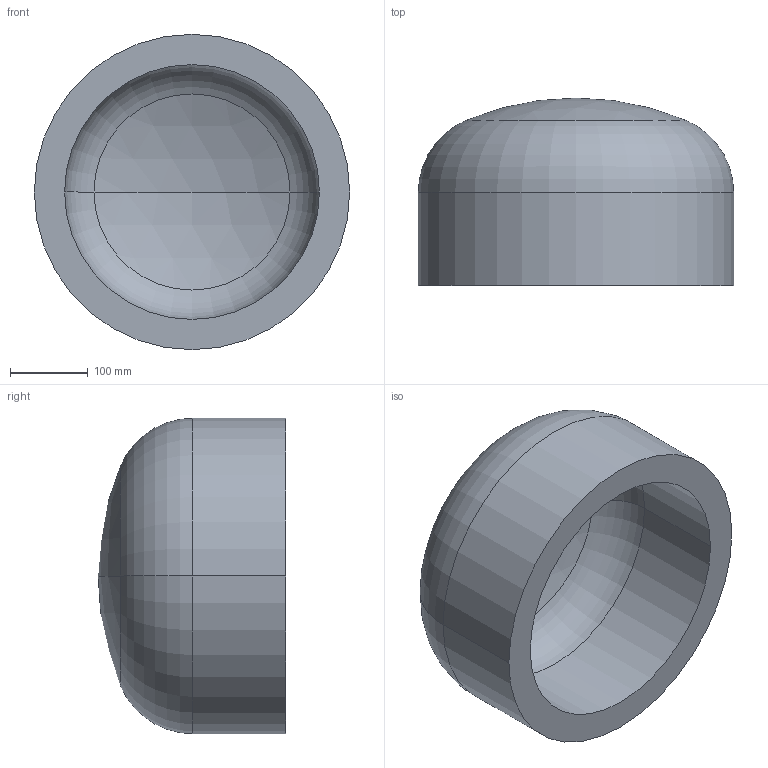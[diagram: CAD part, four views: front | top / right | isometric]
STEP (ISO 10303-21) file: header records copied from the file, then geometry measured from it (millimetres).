
FILE_DESCRIPTION (( 'STEP AP203' ), '1' );
FILE_NAME ('DIN 28013 Korbbogenform_-_Boden DIN 28013 - 406,4 x 120 - I - s=39.step', '2016-07-01T07:50:48', ( '' ), ( '' ), 'SwSTEP 2.0', 'SolidWorks 2013', '' );
FILE_SCHEMA (( 'CONFIG_CONTROL_DESIGN' ));
Length unit declared in the file: millimetre
Products named in the file (1): DIN 28013 Korbbogenform_-_Boden DIN 28013 - 406,4 x 120 - I - s=39
Bounding box: 406.4 x 241.67 x 406.4 mm (x, y, z)
Volume: 11609582.3 mm3; surface area: 643563.3 mm2
Topology: 1 solids, 1 shells, 13 faces, 24 edges, 14 vertices
Faces by surface type: torus 4, cylinder 4, sphere 4, plane 1
Entity records: 407 total; most frequent: DIRECTION 72, CARTESIAN_POINT 52, ORIENTED_EDGE 48, AXIS2_PLACEMENT_3D 34, EDGE_CURVE 24, CIRCLE 20, VERTEX_POINT 14, EDGE_LOOP 14
